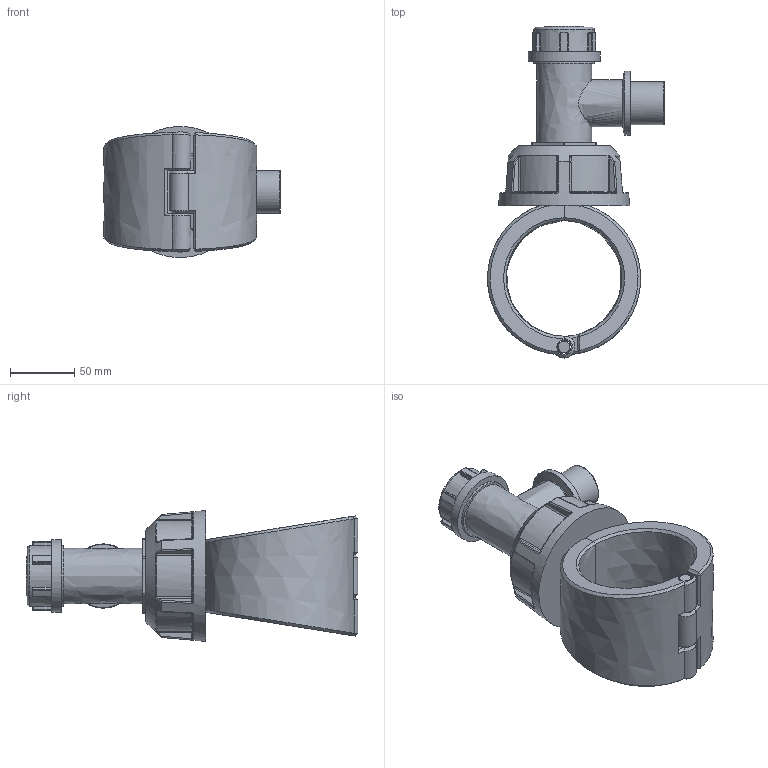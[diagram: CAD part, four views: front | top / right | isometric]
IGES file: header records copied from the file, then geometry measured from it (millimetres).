
Global section: file name: 1631R0090010; native system: Autodesk Inventor 2019; preprocessor: unknown; author: comp2; date: 20220203.120617; units: millimetre
Bounding box: 137.49 x 258 x 101.82 mm (x, y, z)
Volume: 838419.6 mm3; surface area: 121104.3 mm2
Topology: 4 solids, 4 shells, 341 faces, 833 edges, 509 vertices
Faces by surface type: bspline 341
